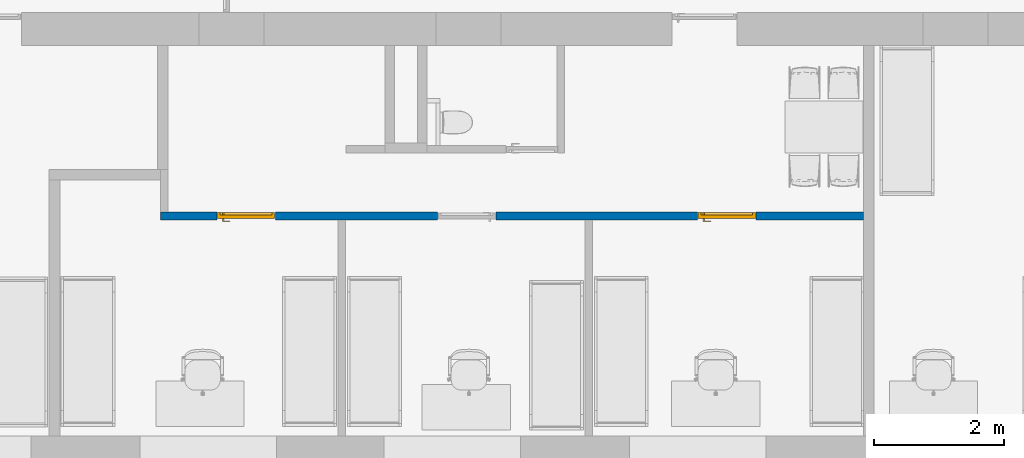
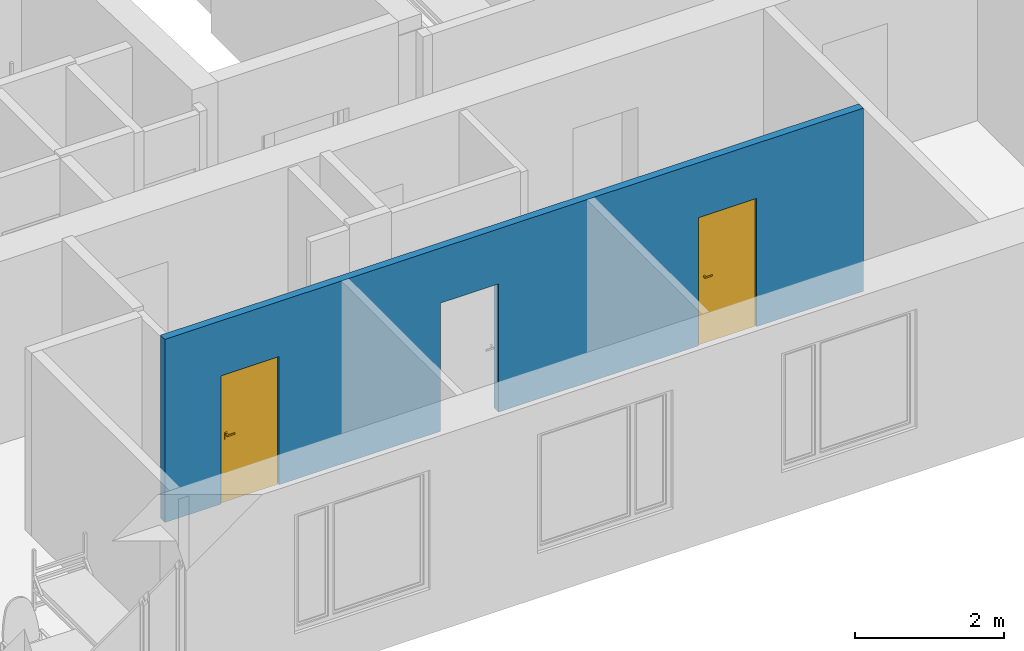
# One storey, part 2 of 46: 2 doors, 1 wall, 3 openings.
"""IFC2X3 building model written with IfcOpenShell, lengths in millimetres."""

from ifc_helpers import new_model, entity, si_unit, converted_unit, derived_unit, direction, frame, frame_2d, origin, place, context, subcontext, project, spatial, polyline, rectangle, extrude, clip, bounded_halfspace, faceted_brep, source, transform, mapped, material, material_list, layer, layer_set, layer_usage, type_object, type_shapes, element, fill, save


model = new_model("IFC2X3")

# Units and contexts
model_context = context("Model", 3, precision=0.01, world=origin(), true_north=direction((6.12303176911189e-17, 1.0)))
body_context = subcontext(model_context, "Body", "Model", "MODEL_VIEW")
ifc_project = project(units=[si_unit("LENGTHUNIT", "METRE", prefix="MILLI"), si_unit("AREAUNIT", "SQUARE_METRE"), si_unit("VOLUMEUNIT", "CUBIC_METRE"), converted_unit("PLANEANGLEUNIT", "DEGREE", entity("IfcRatioMeasure", 0.0174532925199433), si_unit("PLANEANGLEUNIT", "RADIAN"), dimensions=[0, 0, 0, 0, 0, 0, 0]), si_unit("MASSUNIT", "GRAM", prefix="KILO"), derived_unit("MASSDENSITYUNIT", [(si_unit("MASSUNIT", "GRAM", prefix="KILO"), 1), (si_unit("LENGTHUNIT", "METRE"), -3)]), si_unit("TIMEUNIT", "SECOND"), si_unit("FREQUENCYUNIT", "HERTZ"), si_unit("THERMODYNAMICTEMPERATUREUNIT", "DEGREE_CELSIUS"), derived_unit("THERMALTRANSMITTANCEUNIT", [(si_unit("MASSUNIT", "GRAM", prefix="KILO"), 1), (si_unit("THERMODYNAMICTEMPERATUREUNIT", "KELVIN"), -1), (si_unit("TIMEUNIT", "SECOND"), -3)]), derived_unit("VOLUMETRICFLOWRATEUNIT", [(si_unit("LENGTHUNIT", "METRE"), 3), (si_unit("TIMEUNIT", "SECOND"), -1)]), si_unit("ELECTRICCURRENTUNIT", "AMPERE"), si_unit("ELECTRICVOLTAGEUNIT", "VOLT"), si_unit("POWERUNIT", "WATT"), si_unit("FORCEUNIT", "NEWTON", prefix="KILO"), si_unit("ILLUMINANCEUNIT", "LUX"), si_unit("LUMINOUSFLUXUNIT", "LUMEN"), si_unit("LUMINOUSINTENSITYUNIT", "CANDELA"), derived_unit("USERDEFINED", [(si_unit("MASSUNIT", "GRAM", prefix="KILO"), -1), (si_unit("LENGTHUNIT", "METRE"), -2), (si_unit("TIMEUNIT", "SECOND"), 3), (si_unit("LUMINOUSFLUXUNIT", "LUMEN"), 1)]), derived_unit("LINEARVELOCITYUNIT", [(si_unit("LENGTHUNIT", "METRE"), 1), (si_unit("TIMEUNIT", "SECOND"), -1)]), si_unit("PRESSUREUNIT", "PASCAL"), derived_unit("USERDEFINED", [(si_unit("LENGTHUNIT", "METRE"), -2), (si_unit("MASSUNIT", "GRAM", prefix="KILO"), 1), (si_unit("TIMEUNIT", "SECOND"), -2)]), derived_unit("LINEARFORCEUNIT", [(si_unit("MASSUNIT", "GRAM", prefix="KILO"), 1), (si_unit("LENGTHUNIT", "METRE"), 1), (si_unit("TIMEUNIT", "SECOND"), -2), (si_unit("LENGTHUNIT", "METRE"), -1)]), derived_unit("PLANARFORCEUNIT", [(si_unit("MASSUNIT", "GRAM", prefix="KILO"), 1), (si_unit("LENGTHUNIT", "METRE"), 1), (si_unit("TIMEUNIT", "SECOND"), -2), (si_unit("LENGTHUNIT", "METRE"), -2)])], contexts=[model_context])

# Site, building, storey
site_placement = place(None, origin())
site = spatial("IfcSite", under=ifc_project, at=site_placement, Name="Default", CompositionType="ELEMENT")
building_placement = place(site_placement, origin())
building = spatial("IfcBuilding", under=site, at=building_placement, Name="SMA ARH", CompositionType="ELEMENT")
storey_placement = place(building_placement, frame((0.0, 0.0, 9910.0)))
storey = spatial("IfcBuildingStorey", under=building, at=storey_placement, Name="4 Korrus", CompositionType="ELEMENT", Elevation=9909.9999999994)

# Wall, openings, doors
ifc_material_1 = material(Name="EST. Ehitusplaat. Kipsplaat")
ifc_layer_1 = layer(ifc_material_1, 12.5)
ifc_layer_2 = layer(ifc_material_1, 12.5)
ifc_material_2 = material(Name="EST. Soojustus. Mineraalvill. Default")
ifc_layer_3 = layer(ifc_material_2, 66.0)
ifc_layer_4 = layer(ifc_material_1, 12.5)
ifc_layer_5 = layer(ifc_material_1, 12.5)
ifc_layer_set = layer_set([ifc_layer_1, ifc_layer_2, ifc_layer_3, ifc_layer_4, ifc_layer_5], Name="Basic Wall:SS-05_Kips, 66mm metallkarkass")
ifc_layer_usage = layer_usage(ifc_layer_set, "AXIS2", "NEGATIVE", 58.0)
wall_type = type_object("IfcWallType", Name="Basic Wall:SS-05_Kips, 66mm metallkarkass", PredefinedType="STANDARD", material=ifc_layer_set)
wall_placement = place(storey_placement, frame((5337.75000000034, 3387.49999999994, 0.0)))
wall = element("IfcWallStandardCase", 1, at=wall_placement, inside=storey, type_object=wall_type, material=ifc_layer_usage, Name="Basic Wall:SS-05_Kips, 66mm metallkarkass", ObjectType="Basic Wall:SS-05_Kips, 66mm metallkarkass", context=body_context, shape_type="Clipping", body=[
    clip(extrude(rectangle(XDim=10820.2499999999, YDim=116.0, at=frame_2d((5410.12499999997, 5.6843418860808e-14), x_axis=(-1.0, 0.0))), origin(), (0.0, 0.0, 1.0), 3001.0500000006), bounded_halfspace(frame((0.0, -58.0, 3001.0500000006), z_axis=(0.0, 0.0, -1.0), x_axis=(0.0, 1.0, 0.0)), True, frame((0.0, -58.0, 3001.0500000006)), polyline([(0.0, 0.0), (2734.25000000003, 0.0), (2850.25000000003, 0.0), (6534.24999999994, 0.0), (6650.24999999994, 0.0), (10820.2499999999, 0.0), (10820.2499999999, 116.0), (0.0, 116.0), (0.0, 0.0)]))),
])
opening_1_placement = place(wall_placement, frame((9166.0, 58.0, 0.0)))
opening_1 = element("IfcOpeningElement", 2, at=opening_1_placement, cuts=wall, Name="SMA_D01, 1-poolne:SU-P-05 - 900x2100 TUBA:1", ObjectType="Opening", context=body_context, shape_type="SweptSolid", body=[
    extrude(rectangle(XDim=2099.99999999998, YDim=900.0, at=frame_2d((1049.99999999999, 450.000000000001), x_axis=(1.0, 0.0))), frame((0.0, 0.0, 0.0), z_axis=(0.0, -1.0, 0.0), x_axis=(0.0, 0.0, 1.0)), (0.0, 0.0, 1.0), 116.0),
])
opening_2_placement = place(wall_placement, frame((5166.0, 58.0, 0.0)))
element("IfcOpeningElement", 3, at=opening_2_placement, cuts=wall, Name="SMA_D01, 1-poolne:SU-P-05 - 900x2100 TUBA:1", ObjectType="Opening", context=body_context, shape_type="SweptSolid", body=[
    extrude(rectangle(XDim=2099.99999999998, YDim=900.0, at=frame_2d((1049.99999999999, 450.0), x_axis=(1.0, 0.0))), frame((0.0, 0.0, 0.0), z_axis=(0.0, -1.0, 0.0), x_axis=(0.0, 0.0, 1.0)), (0.0, 0.0, 1.0), 116.0),
])
opening_3_placement = place(wall_placement, frame((1766.0, 58.0, 0.0)))
opening_3 = element("IfcOpeningElement", 4, at=opening_3_placement, cuts=wall, Name="SMA_D01, 1-poolne:SU-P-05 - 900x2100 TUBA:1", ObjectType="Opening", context=body_context, shape_type="SweptSolid", body=[
    extrude(rectangle(XDim=2099.99999999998, YDim=900.0, at=frame_2d((1049.99999999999, 450.0), x_axis=(1.0, 0.0))), frame((0.0, 0.0, 0.0), z_axis=(0.0, -1.0, 0.0), x_axis=(0.0, 0.0, 1.0)), (0.0, 0.0, 1.0), 116.0),
])
ifc_material_3 = material(Name="EST. Metall. Alumiinium. Värvitud. RAL7023 (Concrete grey)")
ifc_material_4 = material(Name="<Unnamed>")
ifc_material_5 = material(Name="EST. Klaas. 3x. Default")
ifc_material_list = material_list([ifc_material_3, ifc_material_4, ifc_material_3, ifc_material_4, ifc_material_4, ifc_material_5, ifc_material_3])
door_style = type_object("IfcDoorStyle", Name="SMA_D01, 1-poolne:SU-P-05 - 900x2100 TUBA", ConstructionType="NOTDEFINED", OperationType="SINGLE_SWING_LEFT", ParameterTakesPrecedence=False, Sizeable=False, material=ifc_material_list)
shared_shape = source(origin(), body_context, "Body", "Brep", [
    faceted_brep([(790.0, 6.0, 1112.5), (695.0, 6.0, 1112.5), (695.0, 1.0, 1112.5), (815.0, 1.0, 1112.5), (815.0, 44.0, 1112.5), (790.0, 44.0, 1112.5), (790.0, 6.0, 1087.5), (790.0, 44.0, 1087.5), (815.0, 44.0, 1087.5), (815.0, 1.0, 1087.5), (695.0, 1.0, 1087.5), (695.0, 6.0, 1087.5)], [[[0, 1, 2, 3, 4, 5]], [[6, 7, 8, 9, 10, 11]], [[5, 7, 6, 0]], [[4, 8, 7, 5]], [[3, 9, 8, 4]], [[2, 10, 9, 3]], [[1, 11, 10, 2]], [[0, 6, 11, 1]]]),
    faceted_brep([(777.500000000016, 44.0, 1137.5), (827.500000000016, 44.0, 1137.5), (827.500000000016, 46.0, 1137.5), (777.500000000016, 46.0, 1137.5), (777.500000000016, 44.0, 1017.5), (777.500000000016, 46.0, 1017.5), (827.500000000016, 46.0, 1017.5), (827.500000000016, 44.0, 1017.5)], [[[0, 1, 2, 3]], [[4, 5, 6, 7]], [[3, 5, 4, 0]], [[2, 6, 5, 3]], [[1, 7, 6, 2]], [[0, 4, 7, 1]]]),
    faceted_brep([(790.0, 136.0, 1112.5), (790.0, 98.0, 1112.5), (815.0, 98.0, 1112.5), (815.0, 141.0, 1112.5), (695.0, 141.0, 1112.5), (695.0, 136.0, 1112.5), (790.0, 136.0, 1087.5), (695.0, 136.0, 1087.5), (695.0, 141.0, 1087.5), (815.0, 141.0, 1087.5), (815.0, 98.0, 1087.5), (790.0, 98.0, 1087.5)], [[[0, 1, 2, 3, 4, 5]], [[6, 7, 8, 9, 10, 11]], [[1, 0, 6, 11]], [[2, 1, 11, 10]], [[3, 2, 10, 9]], [[4, 3, 9, 8]], [[5, 4, 8, 7]], [[0, 5, 7, 6]]]),
    faceted_brep([(777.500000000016, 98.0, 1137.5), (777.500000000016, 96.0, 1137.5), (827.500000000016, 96.0, 1137.5), (827.500000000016, 98.0, 1137.5), (777.500000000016, 98.0, 1017.5), (827.500000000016, 98.0, 1017.5), (827.500000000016, 96.0, 1017.5), (777.500000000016, 96.0, 1017.5)], [[[0, 1, 2, 3]], [[4, 5, 6, 7]], [[1, 0, 4, 7]], [[2, 1, 7, 6]], [[3, 2, 6, 5]], [[0, 3, 5, 4]]]),
    faceted_brep([(50.0, 6.0, 30.0), (50.0, 46.0, 30.0), (50.0, 46.0, 20.0), (50.0, 46.0, 0.0), (50.0, 6.0, 0.0), (850.0, 6.0, 30.0), (850.0, 6.0, 0.0), (850.0, 46.0, 0.0), (850.0, 46.0, 20.0), (850.0, 46.0, 30.0), (35.0, 46.0, 0.0), (35.0, 96.0, 0.0), (865.0, 96.0, 0.0), (865.0, 46.0, 0.0), (35.0, 96.0, 20.0), (35.0, 46.0, 20.0), (865.0, 96.0, 20.0), (865.0, 46.0, 20.0)], [[[0, 1, 2, 3, 4]], [[5, 6, 7, 8, 9]], [[4, 6, 5, 0]], [[3, 10, 11, 12, 13, 7, 6, 4]], [[9, 8, 2, 1]], [[0, 5, 9, 1]], [[14, 11, 10, 15]], [[16, 17, 13, 12]], [[15, 2, 8, 17, 16, 14]], [[10, 3, 2, 15]], [[14, 16, 12, 11]], [[17, 8, 7, 13]]]),
    faceted_brep([(10.0, 6.0, 0.0), (10.0, 96.0, 0.0), (35.0, 96.0, 0.0), (35.0, 46.0, 0.0), (50.0, 46.0, 0.0), (50.0, 6.0, 0.0), (50.0, 6.0, 2050.0), (850.0, 6.0, 2050.0), (850.0, 6.0, 0.0), (890.0, 6.0, 0.0), (890.0, 6.0, 2090.0), (10.0, 6.0, 2090.0), (50.0, 46.0, 2050.0), (35.0, 46.0, 2065.0), (865.0, 46.0, 2065.0), (865.0, 46.0, 0.0), (850.0, 46.0, 0.0), (850.0, 46.0, 2050.0), (35.0, 96.0, 2065.0), (10.0, 96.0, 2090.0), (890.0, 96.0, 2090.0), (890.0, 96.0, 0.0), (865.0, 96.0, 0.0), (865.0, 96.0, 2065.0)], [[[0, 1, 2, 3, 4, 5]], [[5, 6, 7, 8, 9, 10, 11, 0]], [[4, 12, 6, 5]], [[3, 13, 14, 15, 16, 17, 12, 4]], [[2, 18, 13, 3]], [[1, 19, 20, 21, 22, 23, 18, 2]], [[0, 11, 19, 1]], [[9, 21, 20, 10]], [[8, 16, 15, 22, 21, 9]], [[7, 17, 16, 8]], [[14, 23, 22, 15]], [[6, 12, 17, 7]], [[13, 18, 23, 14]], [[10, 20, 19, 11]]]),
    faceted_brep([(865.0, 46.0, 2065.0), (35.0, 46.0, 2065.0), (35.0, 46.0, 20.0), (865.0, 46.0, 20.0), (865.0, 96.0, 2065.0), (865.0, 96.0, 20.0), (35.0, 96.0, 20.0), (35.0, 96.0, 2065.0)], [[[0, 1, 2, 3]], [[4, 5, 6, 7]], [[3, 5, 4, 0]], [[2, 6, 5, 3]], [[1, 7, 6, 2]], [[0, 4, 7, 1]]]),
])
type_shapes(door_style, [shared_shape])
door_1_placement = place(opening_3_placement, frame((0.0, 0.0, 0.0), z_axis=(0.0, 0.0, 1.0), x_axis=(-1.0, 0.0, 0.0)))
door_1 = element("IfcDoor", 5, at=door_1_placement, inside=storey, type_object=door_style, material=ifc_material_3, Name="SMA_D01, 1-poolne:SU-P-05 - 900x2100 TUBA", ObjectType="SMA_D01, 1-poolne:SU-P-05 - 900x2100 TUBA", OverallHeight=2099.99999999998, OverallWidth=900.0, context=body_context, shape_type="MappedRepresentation", body=[
    mapped(shared_shape, transform((0.0, 0.0, 0.0), scale=1.0)),
])
fill(opening_3, door_1)
door_2_placement = place(opening_1_placement, frame((0.0, 0.0, 0.0), z_axis=(0.0, 0.0, 1.0), x_axis=(-1.0, 0.0, 0.0)))
door_2 = element("IfcDoor", 6, at=door_2_placement, inside=storey, type_object=door_style, material=ifc_material_3, Name="SMA_D01, 1-poolne:SU-P-05 - 900x2100 TUBA", ObjectType="SMA_D01, 1-poolne:SU-P-05 - 900x2100 TUBA", OverallHeight=2099.99999999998, OverallWidth=900.000000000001, context=body_context, shape_type="MappedRepresentation", body=[
    mapped(shared_shape, transform((0.0, 0.0, 0.0), scale=1.0)),
])
fill(opening_1, door_2)

save(model, "model.ifc")
